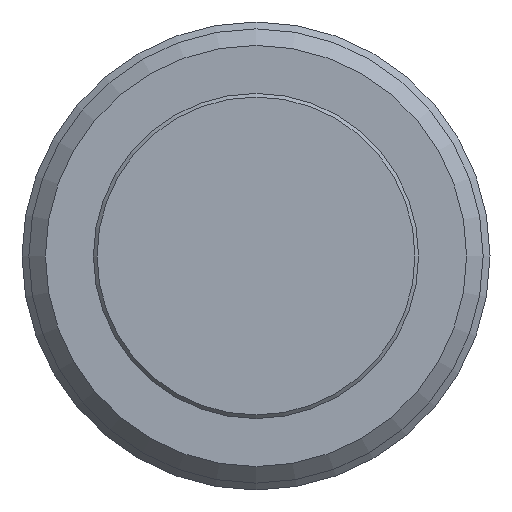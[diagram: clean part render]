
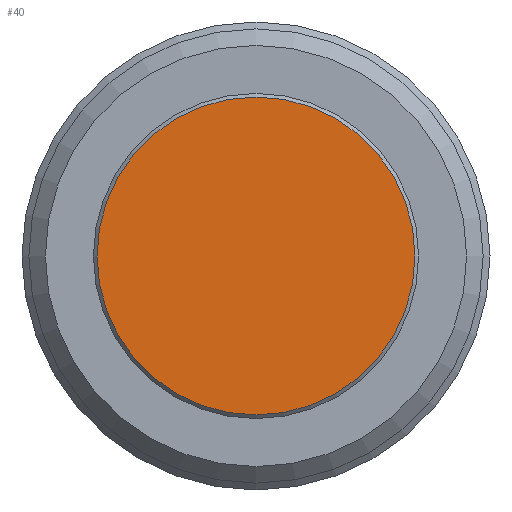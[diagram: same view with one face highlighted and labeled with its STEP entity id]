
A CAD part, front view. The second image highlights one B-rep face of the part: STEP entity #40.
In plain terms, the highlighted planar face has unit normal (0, -1, 0).
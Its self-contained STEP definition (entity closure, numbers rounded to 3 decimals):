
#24=CARTESIAN_POINT('',(11.55,-82.861,0.));
#25=VERTEX_POINT('',#24);
#26=CARTESIAN_POINT('',(0.,-82.861,0.));
#27=DIRECTION('',(0.,-1.,0.));
#28=DIRECTION('',(1.,0.,0.));
#29=AXIS2_PLACEMENT_3D('',#26,#27,#28);
#30=CIRCLE('',#29,11.55);
#31=EDGE_CURVE('',#25,#25,#30,.T.);
#32=ORIENTED_EDGE('',*,*,#31,.T.);
#33=EDGE_LOOP('',(#32));
#34=FACE_OUTER_BOUND('',#33,.T.);
#35=CARTESIAN_POINT('',(5.775,-82.861,0.));
#36=DIRECTION('',(0.,-1.,0.));
#37=DIRECTION('',(1.,0.,0.));
#38=AXIS2_PLACEMENT_3D('',#35,#36,#37);
#39=PLANE('',#38);
#40=ADVANCED_FACE('',(#34),#39,.T.);
